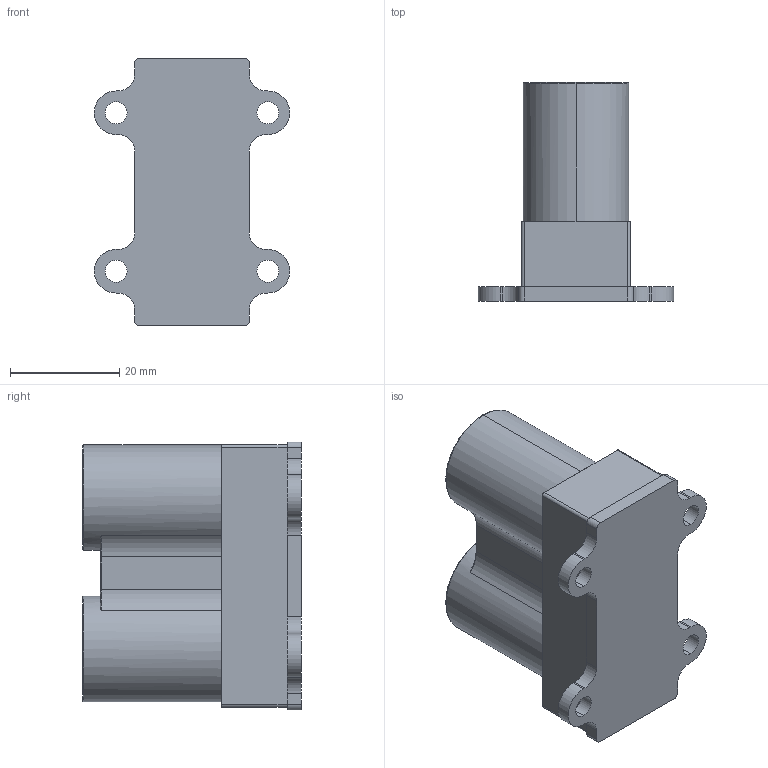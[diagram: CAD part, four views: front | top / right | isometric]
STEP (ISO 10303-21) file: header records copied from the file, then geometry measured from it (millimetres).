
FILE_DESCRIPTION (( 'STEP AP214' ), '1' );
FILE_NAME ('Garmin Lidar Lite V3.STEP', '2019-03-09T16:25:04', ( '' ), ( '' ), 'SwSTEP 2.0', 'SolidWorks 2018', '' );
FILE_SCHEMA (( 'AUTOMOTIVE_DESIGN' ));
Length unit declared in the file: millimetre
Products named in the file (1): Garmin Lidar Lite V3
Bounding box: 35.75 x 40 x 49 mm (x, y, z)
Volume: 23905.7 mm3; surface area: 12434.2 mm2
Topology: 6 solids, 6 shells, 224 faces, 591 edges, 386 vertices
Faces by surface type: plane 160, cylinder 56, torus 8
Entity records: 7012 total; most frequent: CARTESIAN_POINT 1222, ORIENTED_EDGE 1182, DIRECTION 1165, EDGE_CURVE 591, VECTOR 459, LINE 459, VERTEX_POINT 386, AXIS2_PLACEMENT_3D 353
